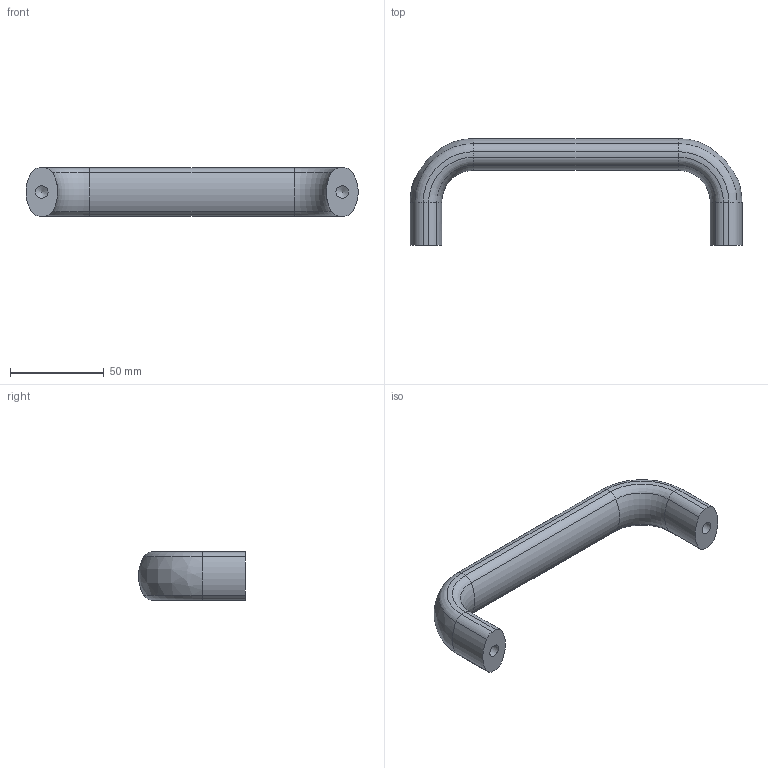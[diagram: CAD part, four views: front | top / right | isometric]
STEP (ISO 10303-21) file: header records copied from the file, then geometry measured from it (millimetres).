
FILE_DESCRIPTION( ( 'STEP AP203' ), '1' );
FILE_NAME( 'C:/Temp/Ganter_Step_05_03_2020/data/1_2/gn_565/Cabinet ''''U'''' handle GN 565-26-160-SW.stp', '2020-03-05T10:08:59', ( 'License CC BY-ND 4.0' ), ( 'CADENAS' ), ' ', 'PARTsolutions', ' ' );
FILE_SCHEMA( ( 'CONFIG_CONTROL_DESIGN' ) );
Length unit declared in the file: millimetre
Products named in the file (1): _Cabinet ''U'' handle GN 565-26-160-SW
Bounding box: 176.88 x 56.99 x 25.99 mm (x, y, z)
Volume: 82832.7 mm3; surface area: 17634.8 mm2
Topology: 1 solids, 1 shells, 52 faces, 130 edges, 80 vertices
Faces by surface type: cylinder 26, torus 14, plane 8, cone 2, bspline 2
Full cylindrical faces by diameter (mm): 6.647 x2
Entity records: 1648 total; most frequent: CARTESIAN_POINT 341, DIRECTION 302, ORIENTED_EDGE 248, AXIS2_PLACEMENT_3D 139, EDGE_CURVE 124, CIRCLE 88, VERTEX_POINT 80, EDGE_LOOP 56
